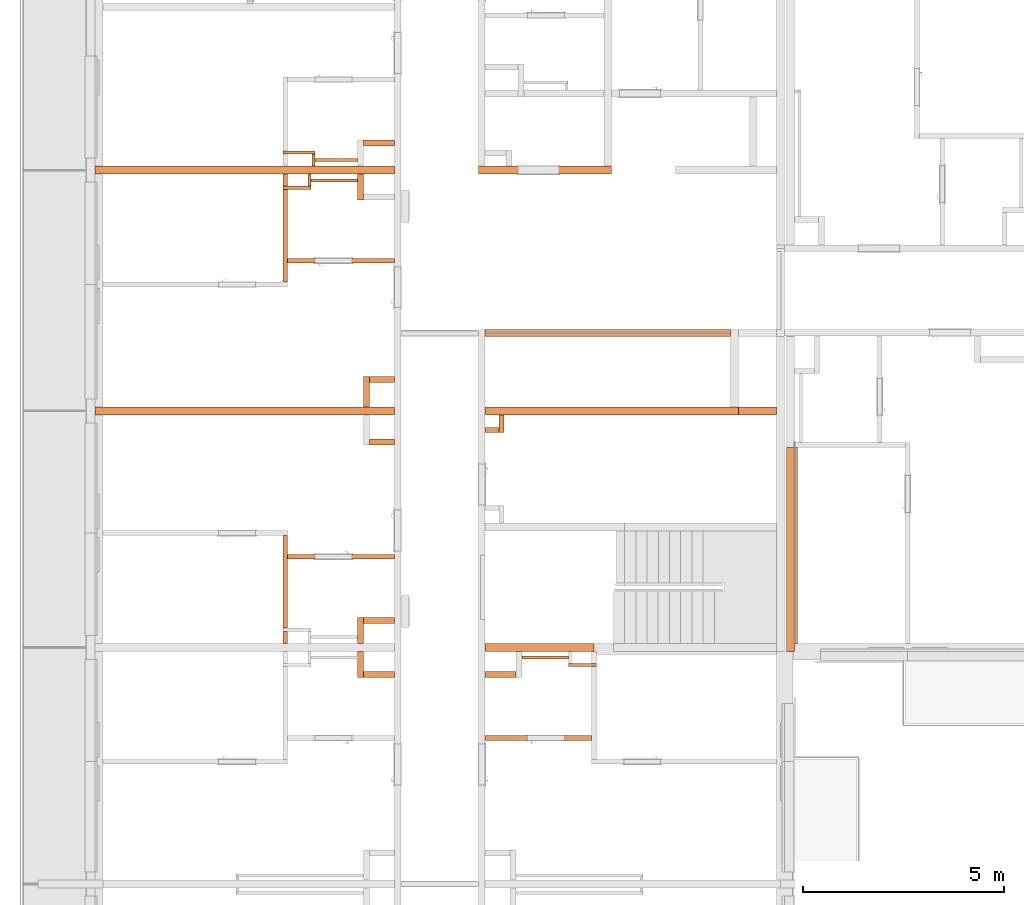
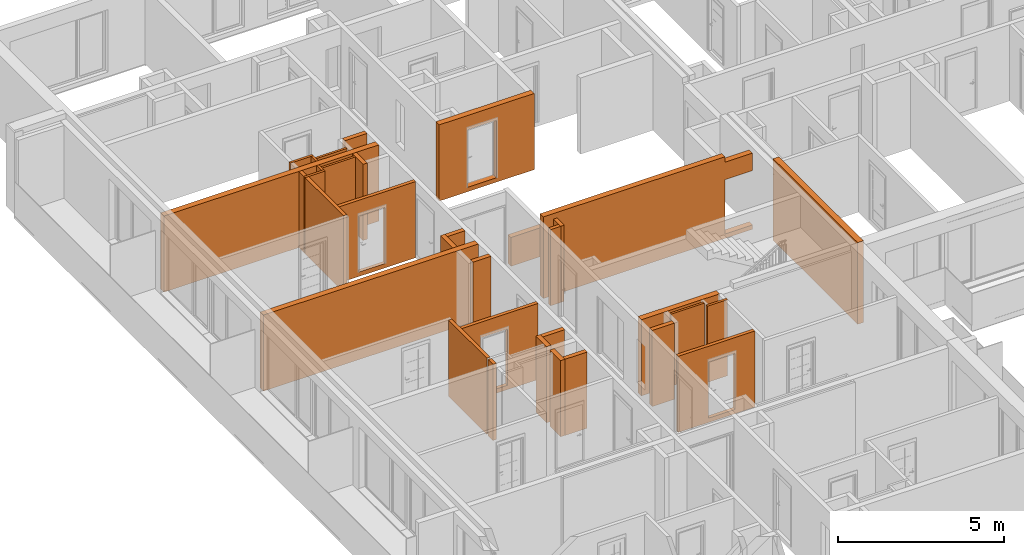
# One storey, part 53 of 64: 32 proxies, 5 openings.
"""IFC2X3 building model written with IfcOpenShell, lengths in millimetres."""

from ifc_helpers import new_model, entity, si_unit, converted_unit, derived_unit, money_unit, direction, frame, origin_with_axes, origin_2d_with_axis, place, context, subcontext, project, spatial, rectangle, extrude, faceted_brep, material, material_list, type_object, element, save


model = new_model("IFC2X3")

# Units and contexts
model_context = context("Model", 3, precision=0.01, world=origin_with_axes(), true_north=direction((0.34421633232, 0.938890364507)))
body_context = subcontext(model_context, "Body", "Model", "MODEL_VIEW")
ifc_project = project(units=[si_unit("LENGTHUNIT", "METRE", prefix="MILLI"), si_unit("AREAUNIT", "SQUARE_METRE"), si_unit("VOLUMEUNIT", "CUBIC_METRE"), converted_unit("PLANEANGLEUNIT", "DEGREE", entity("IfcPlaneAngleMeasure", 0.0174532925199), si_unit("PLANEANGLEUNIT", "RADIAN"), dimensions=[0, 0, 0, 0, 0, 0, 0]), si_unit("SOLIDANGLEUNIT", "STERADIAN"), money_unit("USD"), converted_unit("TIMEUNIT", "Year", entity("IfcTimeMeasure", 31556926.0), si_unit("TIMEUNIT", "SECOND"), dimensions=[0, 0, 1, 0, 0, 0, 0]), si_unit("MASSUNIT", "GRAM", prefix="KILO"), si_unit("THERMODYNAMICTEMPERATUREUNIT", "DEGREE_CELSIUS"), si_unit("LUMINOUSINTENSITYUNIT", "LUMEN"), si_unit("ENERGYUNIT", "JOULE", prefix="MEGA"), derived_unit("THERMALCONDUCTANCEUNIT", [(si_unit("POWERUNIT", "WATT"), 1), (si_unit("LENGTHUNIT", "METRE"), -1), (si_unit("THERMODYNAMICTEMPERATUREUNIT", "KELVIN"), -1)]), derived_unit("SPECIFICHEATCAPACITYUNIT", [(si_unit("ENERGYUNIT", "JOULE"), 1), (si_unit("MASSUNIT", "GRAM", prefix="KILO"), -1), (si_unit("THERMODYNAMICTEMPERATUREUNIT", "KELVIN"), -1)]), derived_unit("MASSDENSITYUNIT", [(si_unit("MASSUNIT", "GRAM", prefix="KILO"), 1), (si_unit("VOLUMEUNIT", "CUBIC_METRE"), -1)])], contexts=[model_context])

# Site, building, storey
site_placement = place(None, origin_with_axes())
site = spatial("IfcSite", under=ifc_project, at=site_placement, Name="USTRONIE MORSKIE", CompositionType="ELEMENT")
building_placement = place(site_placement, origin_with_axes())
building = spatial("IfcBuilding", under=site, at=building_placement, Name="Budynek", CompositionType="ELEMENT")
storey_placement = place(building_placement, frame((0.0, 0.0, 7000.0), z_axis=(0.0, 0.0, 1.0), x_axis=(1.0, 0.0, 0.0)))
storey = spatial("IfcBuildingStorey", under=building, at=storey_placement, Name="PIĘTRO 2", CompositionType="ELEMENT", Elevation=7000.0)

# Proxy, opening
ifc_material_1 = material(Name="Bloczki silikatowe")
building_element_proxy_type_1 = type_object("IfcBuildingElementProxyType", Name="Bloczki silikatowe 120", PredefinedType="NOTDEFINED")
proxy_1_placement = place(storey_placement, frame((354717.920919, 736541.179047, -160.0), z_axis=(0.0, 0.0, 1.0), x_axis=(1.0, 0.0, 0.0)))
proxy_1 = element("IfcBuildingElementProxy", 1, at=proxy_1_placement, inside=storey, type_object=building_element_proxy_type_1, material=ifc_material_1, Name="SW-04", context=body_context, shape_type="Brep", body=[
    faceted_brep([(2720.0, -59.9999999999, 2800.0), (2720.0, 59.9999999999, 2800.0), (60.0, 59.9999999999, 2800.0), (60.0, -59.9999999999, 2800.0), (2720.0, -59.9999999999, 0.0), (2720.0, 59.9999999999, 0.0), (60.0, 59.9999999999, 0.0), (60.0, -59.9999999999, 0.0)], [[[0, 1, 2, 3]], [[1, 0, 4, 5]], [[1, 5, 6, 2]], [[7, 3, 2, 6]], [[4, 0, 3, 7]], [[5, 4, 7, 6]]]),
])
opening_1_placement = place(proxy_1_placement, frame((1200.0, 0.0, 160.0), z_axis=(0.0, 0.0, 1.0), x_axis=(1.0, 0.0, 0.0)))
element("IfcOpeningElement", 2, at=opening_1_placement, cuts=proxy_1, Name="Dw.4", context=body_context, shape_type="SweptSolid", body=[
    extrude(rectangle(XDim=920.0, YDim=2070.0, at=origin_2d_with_axis()), frame((0.0, 120.0, 1035.0), z_axis=(0.0, 1.0, 0.0), x_axis=(1.0, 0.0, 0.0)), (0.0, 0.0, -1.0), 360.0),
    extrude(rectangle(XDim=994.0, YDim=2177.0, at=origin_2d_with_axis()), frame((0.0, 60.0000000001, 1088.5), z_axis=(0.0, 1.0, 0.0), x_axis=(1.0, 0.0, 0.0)), (0.0, 0.0, 1.0), 120.0),
    extrude(rectangle(XDim=994.0, YDim=2177.0, at=origin_2d_with_axis()), frame((0.0, -59.9999999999, 1088.5), z_axis=(0.0, -1.0, 0.0), x_axis=(1.0, 0.0, 0.0)), (0.0, 0.0, 1.0), 120.0),
])

proxy_2_placement = place(storey_placement, frame((362417.920919, 724641.179437, -160.0), z_axis=(0.0, 0.0, 1.0), x_axis=(-1.0, 0.0, 0.0)))
proxy_2 = element("IfcBuildingElementProxy", 3, at=proxy_2_placement, inside=storey, type_object=building_element_proxy_type_1, material=ifc_material_1, Name="SW-04", context=body_context, shape_type="Brep", body=[
    faceted_brep([(2720.0, 59.9999999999, 0.0), (2720.0, -59.9999999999, 0.0), (60.0, -59.9999999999, 0.0), (60.0, 59.9999999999, 0.0), (2720.0, 59.9999999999, 2800.0), (2720.0, -59.9999999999, 2800.0), (60.0, -59.9999999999, 2800.0), (60.0, 59.9999999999, 2800.0)], [[[0, 1, 2, 3]], [[1, 0, 4, 5]], [[1, 5, 6, 2]], [[7, 3, 2, 6]], [[4, 0, 3, 7]], [[5, 4, 7, 6]]]),
])
opening_2_placement = place(proxy_2_placement, frame((1200.0, 1.13686837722e-10, 160.0), z_axis=(0.0, 0.0, 1.0), x_axis=(1.0, 0.0, 0.0)))
element("IfcOpeningElement", 4, at=opening_2_placement, cuts=proxy_2, Name="Dw.4", context=body_context, shape_type="SweptSolid", body=[
    extrude(rectangle(XDim=920.0, YDim=2070.0, at=origin_2d_with_axis()), frame((0.0, -120.0, 1035.0), z_axis=(0.0, -1.0, 0.0), x_axis=(-1.0, 0.0, 0.0)), (0.0, 0.0, -1.0), 360.0),
    extrude(rectangle(XDim=994.0, YDim=2177.0, at=origin_2d_with_axis()), frame((0.0, -59.9999999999, 1088.5), z_axis=(0.0, -1.0, 0.0), x_axis=(-1.0, 0.0, 0.0)), (0.0, 0.0, 1.0), 120.0),
    extrude(rectangle(XDim=994.0, YDim=2177.0, at=origin_2d_with_axis()), frame((0.0, 60.0000000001, 1088.5), z_axis=(0.0, 1.0, 0.0), x_axis=(-1.0, 0.0, 0.0)), (0.0, 0.0, 1.0), 120.0),
])

# Proxies
proxy_3_placement = place(storey_placement, frame((354717.920919, 738801.199036, -160.0), z_axis=(0.0, 0.0, 1.0), x_axis=(0.0, -1.0, 0.0)))
element("IfcBuildingElementProxy", 5, at=proxy_3_placement, inside=storey, type_object=building_element_proxy_type_1, material=ifc_material_1, Name="SW-04", context=body_context, shape_type="Brep", body=[
    faceted_brep([(400.01915523, 60.0, 0.0), (100.000390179, 60.0, 0.0), (100.000390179, 60.0, 2800.0), (400.01915523, 60.0, 2800.0), (400.01915523, -60.0, 0.0), (100.000390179, -60.0, 0.0), (100.000390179, -60.0, 2800.0), (400.01915523, -60.0, 2800.0)], [[[0, 1, 2, 3]], [[4, 5, 1, 0]], [[5, 6, 2, 1]], [[3, 2, 6, 7]], [[4, 0, 3, 7]], [[7, 6, 5, 4]]]),
    faceted_brep([(480.01915523, 60.0, 2800.0), (480.01915523, -60.0, 2800.0), (2790.01935038, -60.0, 2800.0), (2790.01935038, 60.0, 2800.0), (480.01915523, 60.0, 0.0), (480.01915523, -60.0, 0.0), (2790.01935038, -60.0, 0.0), (2790.01935038, 60.0, 0.0)], [[[0, 1, 2, 3]], [[1, 0, 4, 5]], [[1, 5, 6, 2]], [[7, 3, 2, 6]], [[4, 0, 3, 7]], [[5, 4, 7, 6]]]),
])
proxy_4_placement = place(storey_placement, frame((354717.920919, 726901.199036, -160.0), z_axis=(0.0, 0.0, 1.0), x_axis=(0.0, 1.0, 0.0)))
element("IfcBuildingElementProxy", 6, at=proxy_4_placement, inside=storey, type_object=building_element_proxy_type_1, material=ifc_material_1, Name="SW-04", context=body_context, shape_type="Brep", body=[
    faceted_brep([(2790.01935038, 60.0, 0.0), (2790.01935038, -60.0, 0.0), (480.01915523, -60.0, 0.0), (480.01915523, 60.0, 0.0), (2790.01935038, 60.0, 2800.0), (2790.01935038, -60.0, 2800.0), (480.01915523, -60.0, 2800.0), (480.01915523, 60.0, 2800.0)], [[[0, 1, 2, 3]], [[1, 0, 4, 5]], [[1, 5, 6, 2]], [[7, 3, 2, 6]], [[4, 0, 3, 7]], [[5, 4, 7, 6]]]),
    faceted_brep([(400.01915523, 60.0, 0.0), (400.01915523, -60.0, 0.0), (99.9999999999, -60.0, 0.0), (99.9999999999, 60.0, 0.0), (400.01915523, 60.0, 2800.0), (400.01915523, -60.0, 2800.0), (99.9999999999, -60.0, 2800.0), (99.9999999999, 60.0, 2800.0)], [[[0, 1, 2, 3]], [[1, 0, 4, 5]], [[1, 5, 6, 2]], [[7, 3, 2, 6]], [[4, 0, 3, 7]], [[5, 4, 7, 6]]]),
])

# Proxy, opening
proxy_5_placement = place(storey_placement, frame((354717.920919, 729161.218596, -160.0), z_axis=(0.0, 0.0, 1.0), x_axis=(1.0, 0.0, 0.0)))
proxy_5 = element("IfcBuildingElementProxy", 7, at=proxy_5_placement, inside=storey, type_object=building_element_proxy_type_1, material=ifc_material_1, Name="SW-04", context=body_context, shape_type="Brep", body=[
    faceted_brep([(2720.0, 59.9999999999, 0.0), (2720.0, -59.9999999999, 0.0), (60.0, -59.9999999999, 0.0), (60.0, 59.9999999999, 0.0), (2720.0, 59.9999999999, 2800.0), (2720.0, -59.9999999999, 2800.0), (60.0, -59.9999999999, 2800.0), (60.0, 59.9999999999, 2800.0)], [[[0, 1, 2, 3]], [[1, 0, 4, 5]], [[1, 5, 6, 2]], [[7, 3, 2, 6]], [[4, 0, 3, 7]], [[5, 4, 7, 6]]]),
])
opening_3_placement = place(proxy_5_placement, frame((1200.0, 0.0, 160.0), z_axis=(0.0, 0.0, 1.0), x_axis=(1.0, 0.0, 0.0)))
element("IfcOpeningElement", 8, at=opening_3_placement, cuts=proxy_5, Name="Dw.4", context=body_context, shape_type="SweptSolid", body=[
    extrude(rectangle(XDim=920.0, YDim=2070.0, at=origin_2d_with_axis()), frame((0.0, -120.0, 1035.0), z_axis=(0.0, -1.0, 0.0), x_axis=(-1.0, 0.0, 0.0)), (0.0, 0.0, -1.0), 360.0),
    extrude(rectangle(XDim=994.0, YDim=2177.0, at=origin_2d_with_axis()), frame((0.0, -59.9999999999, 1088.5), z_axis=(0.0, -1.0, 0.0), x_axis=(-1.0, 0.0, 0.0)), (0.0, 0.0, 1.0), 120.0),
    extrude(rectangle(XDim=994.0, YDim=2177.0, at=origin_2d_with_axis()), frame((0.0, 60.0000000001, 1088.5), z_axis=(0.0, 1.0, 0.0), x_axis=(-1.0, 0.0, 0.0)), (0.0, 0.0, 1.0), 120.0),
])

# Proxies
proxy_6_placement = place(storey_placement, frame((360047.920919, 732381.198997, -160.0), z_axis=(0.0, 0.0, 1.0), x_axis=(-1.0, 0.0, 0.0)))
element("IfcBuildingElementProxy", 9, at=proxy_6_placement, inside=storey, type_object=building_element_proxy_type_1, material=ifc_material_1, Name="SW-04", context=body_context, shape_type="Brep", body=[
    faceted_brep([(350.0, 120.0, 0.0), (350.0, 0.0, 0.0), (0.0, 0.0, 0.0), (0.0, 120.0, 0.0), (350.0, 120.0, 2800.0), (350.0, 0.0, 2800.0), (0.0, 0.0, 2800.0), (0.0, 120.0, 2800.0)], [[[0, 1, 2, 3]], [[1, 0, 4, 5]], [[1, 5, 6, 2]], [[7, 3, 2, 6]], [[4, 0, 3, 7]], [[5, 4, 7, 6]]]),
])
proxy_7_placement = place(storey_placement, frame((360047.920919, 732801.199169, -160.0), z_axis=(0.0, 0.0, 1.0), x_axis=(0.0, -1.0, 0.0)))
element("IfcBuildingElementProxy", 10, at=proxy_7_placement, inside=storey, type_object=building_element_proxy_type_1, material=ifc_material_1, Name="SW-04", context=body_context, shape_type="Brep", body=[
    faceted_brep([(540.000171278, 120.0, 0.0), (540.000171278, 0.0, 0.0), (100.000132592, 0.0, 0.0), (100.000132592, 120.0, 0.0), (540.000171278, 120.0, 2800.0), (540.000171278, 0.0, 2800.0), (100.000132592, 0.0, 2800.0), (100.000132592, 120.0, 2800.0)], [[[0, 1, 2, 3]], [[1, 0, 4, 5]], [[1, 5, 6, 2]], [[7, 3, 2, 6]], [[4, 0, 3, 7]], [[5, 4, 7, 6]]]),
])
building_element_proxy_type_2 = type_object("IfcBuildingElementProxyType", Name="Bloczki silikatowe 180", PredefinedType="NOTDEFINED")
proxy_8_placement = place(storey_placement, frame((365817.926125, 734741.198985, -160.0), z_axis=(0.0, 0.0, 1.0), x_axis=(-1.0, 0.0, 0.0)))
element("IfcBuildingElementProxy", 11, at=proxy_8_placement, inside=storey, type_object=building_element_proxy_type_2, material=ifc_material_1, Name="SW-02", context=body_context, shape_type="Brep", body=[
    faceted_brep([(6120.00520575, 90.0, 0.0), (6120.00520575, -90.0, 0.0), (0.0, -90.0, 0.0), (0.0, 90.0, 0.0), (6120.00520575, 90.0, 1060.0), (6120.00520575, -90.0, 1060.0), (0.0, -90.0, 1060.0), (0.0, 90.0, 1060.0)], [[[0, 1, 2, 3]], [[1, 0, 4, 5]], [[1, 5, 6, 2]], [[7, 3, 2, 6]], [[4, 0, 3, 7]], [[5, 4, 7, 6]]]),
])
ifc_material_2 = material(Name="-Pustka powietrzna")
ifc_material_3 = material(Name="Płyta GK")
ifc_material_list_1 = material_list([ifc_material_2, ifc_material_3, ifc_material_3])
building_element_proxy_type_3 = type_object("IfcBuildingElementProxyType", Name="330-SD GK 2-warstwy 75", PredefinedType="NOTDEFINED")
proxy_9_placement = place(storey_placement, frame((360542.92182, 726631.200807, -180.0), z_axis=(0.0, 0.0, 1.0), x_axis=(1.0, 0.0, 0.0)))
element("IfcBuildingElementProxy", 12, at=proxy_9_placement, inside=storey, type_object=building_element_proxy_type_3, material=ifc_material_list_1, Name="Ściana-009", context=body_context, shape_type="Brep", body=[
    faceted_brep([(1234.99909883, 0.0, 180.0), (1234.99909883, 50.0, 180.0), (1234.99909883, 50.0, 2820.0), (1234.99909883, 0.0, 2820.0), (75.0, 50.0, 180.0), (75.0, 0.0, 180.0), (75.0, 50.0, 2820.0), (75.0, 0.0, 2820.0)], [[[0, 1, 2, 3]], [[4, 1, 0, 5]], [[1, 4, 6, 2]], [[7, 3, 2, 6]], [[5, 0, 3, 7]], [[4, 5, 7, 6]]]),
    faceted_brep([(1234.99909883, -12.5, 165.0), (1234.99909883, 0.0, 165.0), (1234.99909883, 0.0, 2820.0), (1234.99909883, -12.5, 2820.0), (75.0, 0.0, 165.0), (75.0, -12.5, 165.0), (75.0, 0.0, 2820.0), (75.0, -12.5, 2820.0)], [[[0, 1, 2, 3]], [[4, 1, 0, 5]], [[1, 4, 6, 2]], [[7, 3, 2, 6]], [[5, 0, 3, 7]], [[4, 5, 7, 6]]]),
    faceted_brep([(1234.99909883, -25.0, 165.0), (1234.99909883, -12.5, 165.0), (1234.99909883, -12.5, 2820.0), (1234.99909883, -25.0, 2820.0), (75.0, -12.5, 165.0), (75.0, -25.0, 165.0), (75.0, -12.5, 2820.0), (75.0, -25.0, 2820.0)], [[[0, 1, 2, 3]], [[4, 1, 0, 5]], [[1, 4, 6, 2]], [[7, 3, 2, 6]], [[5, 0, 3, 7]], [[4, 5, 7, 6]]]),
])
proxy_10_placement = place(storey_placement, frame((355317.920919, 738531.200389, -180.0), z_axis=(0.0, 0.0, 1.0), x_axis=(1.0, 0.0, 0.0)))
element("IfcBuildingElementProxy", 13, at=proxy_10_placement, inside=storey, type_object=building_element_proxy_type_3, material=ifc_material_list_1, Name="Ściana-009", context=body_context, shape_type="Brep", body=[
    faceted_brep([(1199.99909883, 0.0, 180.0), (1199.99909883, 50.0, 180.0), (1199.99909883, 50.0, 2820.0), (1199.99909883, 0.0, 2820.0), (40.0, 50.0, 180.0), (40.0, 0.0, 180.0), (40.0, 50.0, 2820.0), (40.0, 0.0, 2820.0)], [[[0, 1, 2, 3]], [[4, 1, 0, 5]], [[1, 4, 6, 2]], [[7, 3, 2, 6]], [[5, 0, 3, 7]], [[4, 5, 7, 6]]]),
    faceted_brep([(1199.99909883, -12.5, 165.0), (1199.99909883, 0.0, 165.0), (1199.99909883, 0.0, 2820.0), (1199.99909883, -12.5, 2820.0), (40.0, 0.0, 165.0), (40.0, -12.5, 165.0), (40.0, 0.0, 2820.0), (40.0, -12.5, 2820.0)], [[[0, 1, 2, 3]], [[4, 1, 0, 5]], [[1, 4, 6, 2]], [[7, 3, 2, 6]], [[5, 0, 3, 7]], [[4, 5, 7, 6]]]),
    faceted_brep([(1199.99909883, -25.0, 165.0), (1199.99909883, -12.5, 165.0), (1199.99909883, -12.5, 2820.0), (1199.99909883, -25.0, 2820.0), (40.0, -12.5, 165.0), (40.0, -25.0, 165.0), (40.0, -12.5, 2820.0), (40.0, -25.0, 2820.0)], [[[0, 1, 2, 3]], [[4, 1, 0, 5]], [[1, 4, 6, 2]], [[7, 3, 2, 6]], [[5, 0, 3, 7]], [[4, 5, 7, 6]]]),
])
ifc_material_list_2 = material_list([ifc_material_3, ifc_material_3, ifc_material_2])
proxy_11_placement = place(storey_placement, frame((355417.920919, 739071.20032, -180.0), z_axis=(0.0, 0.0, 1.0), x_axis=(1.0, 0.0, 0.0)))
element("IfcBuildingElementProxy", 14, at=proxy_11_placement, inside=storey, type_object=building_element_proxy_type_3, material=ifc_material_list_2, Name="Ściana-009", context=body_context, shape_type="Brep", body=[
    faceted_brep([(1099.99909883, 12.5, 165.0), (1099.99909883, 25.0, 165.0), (1099.99909883, 25.0, 2820.0), (1099.99909883, 12.5, 2820.0), (40.0, 25.0, 165.0), (40.0, 12.5, 165.0), (40.0, 25.0, 2820.0), (40.0, 12.5, 2820.0)], [[[0, 1, 2, 3]], [[4, 1, 0, 5]], [[1, 4, 6, 2]], [[7, 3, 2, 6]], [[5, 0, 3, 7]], [[4, 5, 7, 6]]]),
    faceted_brep([(1099.99909883, 0.0, 165.0), (1099.99909883, 12.5, 165.0), (1099.99909883, 12.5, 2820.0), (1099.99909883, 0.0, 2820.0), (40.0, 12.5, 165.0), (40.0, 0.0, 165.0), (40.0, 12.5, 2820.0), (40.0, 0.0, 2820.0)], [[[0, 1, 2, 3]], [[4, 1, 0, 5]], [[1, 4, 6, 2]], [[7, 3, 2, 6]], [[5, 0, 3, 7]], [[4, 5, 7, 6]]]),
    faceted_brep([(1099.99909883, -50.0, 180.0), (1099.99909883, 0.0, 180.0), (1099.99909883, 0.0, 2820.0), (1099.99909883, -50.0, 2820.0), (40.0, 0.0, 180.0), (40.0, -50.0, 180.0), (40.0, 0.0, 2820.0), (40.0, -50.0, 2820.0)], [[[0, 1, 2, 3]], [[4, 1, 0, 5]], [[1, 4, 6, 2]], [[7, 3, 2, 6]], [[5, 0, 3, 7]], [[4, 5, 7, 6]]]),
])
building_element_proxy_type_4 = type_object("IfcBuildingElementProxyType", Name="Bloczki silikatowe 80", PredefinedType="NOTDEFINED")
proxy_12_placement = place(storey_placement, frame((362417.920919, 726461.179881, -160.0), z_axis=(0.0, 0.0, 1.0), x_axis=(-1.0, 0.0, 0.0)))
element("IfcBuildingElementProxy", 15, at=proxy_12_placement, inside=storey, type_object=building_element_proxy_type_4, material=ifc_material_1, Name="Ściana-009", context=body_context, shape_type="Brep", body=[
    faceted_brep([(640.0, 40.0, 0.0), (640.0, -40.0, 0.0), (-60.0, -40.0, 0.0), (-60.0, 40.0, 0.0), (640.0, 40.0, 2800.0), (640.0, -40.0, 2800.0), (-60.0, -40.0, 2800.0), (-60.0, 40.0, 2800.0)], [[[0, 1, 2, 3]], [[1, 0, 4, 5]], [[1, 5, 6, 2]], [[7, 3, 2, 6]], [[4, 0, 3, 7]], [[5, 4, 7, 6]]]),
])
proxy_13_placement = place(storey_placement, frame((355317.920919, 738801.19863, -160.0), z_axis=(0.0, 0.0, 1.0), x_axis=(0.0, -1.0, 0.0)))
element("IfcBuildingElementProxy", 16, at=proxy_13_placement, inside=storey, type_object=building_element_proxy_type_4, material=ifc_material_1, Name="Ściana-010", context=body_context, shape_type="Brep", body=[
    faceted_brep([(400.018748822, -40.0, 2800.0), (400.018748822, 40.0, 2800.0), (99.9999997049, 40.0, 2800.0), (100.000000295, -40.0, 2800.0), (400.018748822, -40.0, 0.0), (400.018748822, 40.0, 0.0), (99.9999997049, 40.0, 0.0), (100.000000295, -40.0, 0.0)], [[[0, 1, 2, 3]], [[1, 0, 4, 5]], [[1, 5, 6, 2]], [[7, 3, 2, 6]], [[4, 0, 3, 7]], [[5, 4, 7, 6]]]),
])
proxy_14_placement = place(storey_placement, frame((354717.920919, 738361.179881, -160.0), z_axis=(0.0, 0.0, 1.0), x_axis=(1.0, 0.0, 0.0)))
element("IfcBuildingElementProxy", 17, at=proxy_14_placement, inside=storey, type_object=building_element_proxy_type_4, material=ifc_material_1, Name="Ściana-009", context=body_context, shape_type="Brep", body=[
    faceted_brep([(640.0, -40.0, 2800.0), (640.0, 40.0, 2800.0), (-60.0, 40.0, 2800.0), (-60.0, -40.0, 2800.0), (640.0, -40.0, 0.0), (640.0, 40.0, 0.0), (-60.0, 40.0, 0.0), (-60.0, -40.0, 0.0)], [[[0, 1, 2, 3]], [[1, 0, 4, 5]], [[1, 5, 6, 2]], [[7, 3, 2, 6]], [[4, 0, 3, 7]], [[5, 4, 7, 6]]]),
])
proxy_15_placement = place(storey_placement, frame((355417.920919, 738801.19863, -160.0), z_axis=(0.0, 0.0, 1.0), x_axis=(0.0, 1.0, 0.0)))
element("IfcBuildingElementProxy", 18, at=proxy_15_placement, inside=storey, type_object=building_element_proxy_type_4, material=ifc_material_1, Name="Ściana-010", context=body_context, shape_type="Brep", body=[
    faceted_brep([(400.019561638, 40.0, 0.0), (400.019561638, -40.0, 0.0), (100.000001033, -40.0, 0.0), (100.000000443, 40.0, 0.0), (400.019561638, 40.0, 2800.0), (400.019561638, -40.0, 2800.0), (100.000001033, -40.0, 2800.0), (100.000000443, 40.0, 2800.0)], [[[0, 1, 2, 3]], [[1, 0, 4, 5]], [[1, 5, 6, 2]], [[7, 3, 2, 6]], [[4, 0, 3, 7]], [[5, 4, 7, 6]]]),
])
proxy_16_placement = place(storey_placement, frame((354717.920919, 739241.218191, -160.0), z_axis=(0.0, 0.0, 1.0), x_axis=(1.0, 0.0, 0.0)))
element("IfcBuildingElementProxy", 19, at=proxy_16_placement, inside=storey, type_object=building_element_proxy_type_4, material=ifc_material_1, Name="Ściana-009", context=body_context, shape_type="Brep", body=[
    faceted_brep([(740.0, 40.0, 0.0), (740.0, -40.0, 0.0), (-60.0, -40.0, 0.0), (-60.0, 40.0, 0.0), (740.0, 40.0, 2800.0), (740.0, -40.0, 2800.0), (-60.0, -40.0, 2800.0), (-60.0, 40.0, 2800.0)], [[[0, 1, 2, 3]], [[1, 0, 4, 5]], [[1, 5, 6, 2]], [[7, 3, 2, 6]], [[4, 0, 3, 7]], [[5, 4, 7, 6]]]),
])
building_element_proxy_type_5 = type_object("IfcBuildingElementProxyType", Name="Bloczki silikatowe 150", PredefinedType="NOTDEFINED")
proxy_17_placement = place(storey_placement, frame((356592.920018, 726901.199043, -160.0), z_axis=(0.0, 0.0, 1.0), x_axis=(0.0, -1.0, 0.0)))
element("IfcBuildingElementProxy", 20, at=proxy_17_placement, inside=storey, type_object=building_element_proxy_type_5, material=ifc_material_1, Name="SW-03", context=body_context, shape_type="Brep", body=[
    faceted_brep([(750.000879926, -75.0, 2800.0), (750.000879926, 75.0, 2800.0), (100.000007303, 75.0, 2800.0), (100.000007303, -75.0, 2800.0), (750.000879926, -75.0, 0.0), (750.000879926, 75.0, 0.0), (100.000007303, 75.0, 0.0), (100.000007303, -75.0, 0.0)], [[[0, 1, 2, 3]], [[1, 0, 4, 5]], [[1, 5, 6, 2]], [[7, 3, 2, 6]], [[4, 0, 3, 7]], [[5, 4, 7, 6]]]),
])
for number, where, z_axis, x_axis, name in (
    (21, (356592.920018, 727576.199909, -160.0), (0.0, 0.0, 1.0), (1.0, 0.0, 0.0), "SW-03"),
    (22, (356592.920018, 739476.199519, -160.0), (0.0, 0.0, 1.0), (1.0, 0.0, 0.0), "SW-03"),
):
    element("IfcBuildingElementProxy", number, at=place(storey_placement, frame(where, z_axis=z_axis, x_axis=x_axis)), inside=storey, type_object=building_element_proxy_type_5, material=ifc_material_1, Name=name, context=body_context, shape_type="Brep", body=[
        faceted_brep([(845.00090117, 75.0, 0.0), (845.00090117, -75.0, 0.0), (75.0, -75.0, 0.0), (75.0, 75.0, 0.0), (845.00090117, 75.0, 2800.0), (845.00090117, -75.0, 2800.0), (75.0, -75.0, 2800.0), (75.0, 75.0, 2800.0)], [[[0, 1, 2, 3]], [[1, 0, 4, 5]], [[1, 5, 6, 2]], [[7, 3, 2, 6]], [[4, 0, 3, 7]], [[5, 4, 7, 6]]]),
    ])
proxy_18_placement = place(storey_placement, frame((356817.920919, 732801.198998, -160.0), z_axis=(0.0, 0.0, 1.0), x_axis=(0.0, 1.0, 0.0)))
element("IfcBuildingElementProxy", 23, at=proxy_18_placement, inside=storey, type_object=building_element_proxy_type_5, material=ifc_material_1, Name="SW-03", context=body_context, shape_type="Brep", body=[
    faceted_brep([(850.000037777, 150.0, 0.0), (850.000037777, 0.0, 0.0), (100.000037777, 0.0, 0.0), (100.000037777, 150.0, 0.0), (850.000037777, 150.0, 2800.0), (850.000037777, 0.0, 2800.0), (100.000037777, 0.0, 2800.0), (100.000037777, 150.0, 2800.0)], [[[0, 1, 2, 3]], [[1, 0, 4, 5]], [[1, 5, 6, 2]], [[7, 3, 2, 6]], [[4, 0, 3, 7]], [[5, 4, 7, 6]]]),
])
proxy_19_placement = place(storey_placement, frame((356817.920919, 733501.199036, -160.0), z_axis=(0.0, 0.0, 1.0), x_axis=(1.0, 0.0, 0.0)))
element("IfcBuildingElementProxy", 24, at=proxy_19_placement, inside=storey, type_object=building_element_proxy_type_5, material=ifc_material_1, Name="SW-03", context=body_context, shape_type="Brep", body=[
    faceted_brep([(620.0, 150.0, 0.0), (620.0, 0.0, 0.0), (0.0, 0.0, 0.0), (0.0, 150.0, 0.0), (620.0, 150.0, 2800.0), (620.0, 0.0, 2800.0), (0.0, 0.0, 2800.0), (0.0, 150.0, 2800.0)], [[[0, 1, 2, 3]], [[1, 0, 4, 5]], [[1, 5, 6, 2]], [[7, 3, 2, 6]], [[4, 0, 3, 7]], [[5, 4, 7, 6]]]),
])
proxy_20_placement = place(storey_placement, frame((356592.920018, 738801.198641, -160.0), z_axis=(0.0, 0.0, 1.0), x_axis=(0.0, -1.0, 0.0)))
element("IfcBuildingElementProxy", 25, at=proxy_20_placement, inside=storey, type_object=building_element_proxy_type_5, material=ifc_material_1, Name="SW-03", context=body_context, shape_type="Brep", body=[
    faceted_brep([(750.000879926, -75.0, 2800.0), (750.000879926, 75.0, 2800.0), (100.000001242, 75.0, 2800.0), (100.000002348, -75.0, 2800.0), (750.000879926, -75.0, 0.0), (750.000879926, 75.0, 0.0), (100.000001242, 75.0, 0.0), (100.000002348, -75.0, 0.0)], [[[0, 1, 2, 3]], [[1, 0, 4, 5]], [[1, 5, 6, 2]], [[7, 3, 2, 6]], [[4, 0, 3, 7]], [[5, 4, 7, 6]]]),
])
proxy_21_placement = place(storey_placement, frame((360542.92182, 726226.197058, -160.0), z_axis=(0.0, 0.0, 1.0), x_axis=(-1.0, 0.0, 0.0)))
element("IfcBuildingElementProxy", 26, at=proxy_21_placement, inside=storey, type_object=building_element_proxy_type_5, material=ifc_material_1, Name="Ściana-009", context=body_context, shape_type="Brep", body=[
    faceted_brep([(845.00090117, 75.0, 0.0), (845.00090117, -75.0, 0.0), (75.0, -75.0, 0.0), (75.0, 75.0, 0.0), (845.00090117, 75.0, 2800.0), (845.00090117, -75.0, 2800.0), (75.0, -75.0, 2800.0), (75.0, 75.0, 2800.0)], [[[0, 1, 2, 3]], [[1, 0, 4, 5]], [[1, 5, 6, 2]], [[7, 3, 2, 6]], [[4, 0, 3, 7]], [[5, 4, 7, 6]]]),
])
proxy_22_placement = place(storey_placement, frame((356592.920018, 726901.199029, -160.0), z_axis=(0.0, 0.0, 1.0), x_axis=(0.0, 1.0, 0.0)))
element("IfcBuildingElementProxy", 27, at=proxy_22_placement, inside=storey, type_object=building_element_proxy_type_5, material=ifc_material_1, Name="SW-03", context=body_context, shape_type="Brep", body=[
    faceted_brep([(750.000879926, 75.0, 2800.0), (100.000007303, 75.0, 2800.0), (100.000007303, -75.0, 2800.0), (750.000879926, -75.0, 2800.0), (750.000879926, 75.0, 0.0), (100.000007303, 75.0, 0.0), (100.000007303, -75.0, 0.0), (750.000879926, -75.0, 0.0)], [[[0, 1, 2, 3]], [[4, 5, 1, 0]], [[5, 6, 2, 1]], [[3, 2, 6, 7]], [[0, 3, 7, 4]], [[7, 6, 5, 4]]]),
])
proxy_23_placement = place(storey_placement, frame((356817.920919, 732101.199036, -160.0), z_axis=(0.0, 0.0, 1.0), x_axis=(1.0, 0.0, 0.0)))
element("IfcBuildingElementProxy", 28, at=proxy_23_placement, inside=storey, type_object=building_element_proxy_type_5, material=ifc_material_1, Name="SW-03", context=body_context, shape_type="Brep", body=[
    faceted_brep([(620.0, -150.0, 2800.0), (620.0, 0.0, 2800.0), (0.0, 0.0, 2800.0), (0.0, -150.0, 2800.0), (620.0, -150.0, 0.0), (620.0, 0.0, 0.0), (0.0, 0.0, 0.0), (0.0, -150.0, 0.0)], [[[0, 1, 2, 3]], [[1, 0, 4, 5]], [[1, 5, 6, 2]], [[7, 3, 2, 6]], [[4, 0, 3, 7]], [[5, 4, 7, 6]]]),
])
proxy_24_placement = place(storey_placement, frame((356592.920018, 726226.198164, -160.0), z_axis=(0.0, 0.0, 1.0), x_axis=(1.0, 0.0, 0.0)))
element("IfcBuildingElementProxy", 29, at=proxy_24_placement, inside=storey, type_object=building_element_proxy_type_5, material=ifc_material_1, Name="SW-03", context=body_context, shape_type="Brep", body=[
    faceted_brep([(845.00090117, -75.0, 2800.0), (845.00090117, 75.0, 2800.0), (75.0, 75.0, 2800.0), (75.0, -75.0, 2800.0), (845.00090117, -75.0, 0.0), (845.00090117, 75.0, 0.0), (75.0, 75.0, 0.0), (75.0, -75.0, 0.0)], [[[0, 1, 2, 3]], [[1, 0, 4, 5]], [[1, 5, 6, 2]], [[7, 3, 2, 6]], [[4, 0, 3, 7]], [[5, 4, 7, 6]]]),
])

# Proxy, opening
ifc_material_4 = material(Name="Beton konstrukcyjny B25")
building_element_proxy_type_6 = type_object("IfcBuildingElementProxyType", Name="Beton konstrukcyjny B25 200", PredefinedType="NOTDEFINED")
proxy_25_placement = place(storey_placement, frame((367067.920684, 732801.199036, -160.0), z_axis=(0.0, 0.0, 1.0), x_axis=(-1.0, 0.0, 0.0)))
proxy_25 = element("IfcBuildingElementProxy", 30, at=proxy_25_placement, inside=storey, type_object=building_element_proxy_type_6, material=ifc_material_4, Name="SW-01", context=body_context, shape_type="Brep", body=[
    faceted_brep([(7369.99976534, -100.0, 3000.0), (1049.93160394, -100.004790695, 3000.0), (1049.93160394, -100.004790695, 2800.0), (99.999994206, -100.000000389, 2800.0), (99.999994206, -100.0, 0.0), (7369.99976534, -100.0, 0.0), (7369.99976534, 100.005310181, 3000.0), (1049.93145185, 100.000504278, 3000.0), (1049.93145185, 100.000504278, 2800.0), (100.000005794, 100.0, 2800.0), (100.000005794, 100.0, 0.0), (7369.99976534, 100.0, 0.0), (7369.99976534, 100.005310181, 2800.0)], [[[0, 1, 2, 3, 4, 5]], [[6, 7, 1, 0]], [[8, 2, 1, 7]], [[8, 9, 3, 2]], [[4, 3, 9, 10]], [[4, 10, 11, 5]], [[11, 12, 6, 0, 5]], [[9, 8, 7, 6, 12, 11, 10]]]),
])
opening_4_placement = place(proxy_25_placement, frame((575.001569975, 1.13686837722e-10, 160.0), z_axis=(0.0, 0.0, 1.0), x_axis=(1.0, 0.0, 0.0)))
element("IfcOpeningElement", 31, at=opening_4_placement, cuts=proxy_25, context=body_context, shape_type="SweptSolid", body=[
    extrude(rectangle(XDim=950.005444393, YDim=2000.0, at=origin_2d_with_axis()), frame((0.0, -100.0, 1000.0), z_axis=(0.0, 1.0, 0.0), x_axis=(1.0, 0.0, 0.0)), (0.0, 0.0, -1.0), 200.0),
    extrude(rectangle(XDim=950.005444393, YDim=2000.0, at=origin_2d_with_axis()), frame((0.0, -100.0, 1000.0), z_axis=(0.0, -1.0, 0.0), x_axis=(1.0, 0.0, 0.0)), (0.0, 0.0, -1.0), 200.0),
])

proxy_26_placement = place(storey_placement, frame((359617.920919, 738801.199036, -160.0), z_axis=(0.0, 0.0, 1.0), x_axis=(1.0, 0.0, 0.0)))
proxy_26 = element("IfcBuildingElementProxy", 32, at=proxy_26_placement, inside=storey, type_object=building_element_proxy_type_6, material=ifc_material_4, Name="SW-01", context=body_context, shape_type="Brep", body=[
    faceted_brep([(3229.99995481, 100.0, 0.0), (3229.99995481, -100.0, 0.0), (-80.0, -100.0, 0.0), (-80.0, 100.0, 0.0), (3229.99995481, 100.0, 2800.0), (3229.99995481, -100.0, 2800.0), (-80.0, -100.0, 2800.0), (-80.0, 100.0, 2800.0)], [[[0, 1, 2, 3]], [[1, 0, 4, 5]], [[1, 5, 6, 2]], [[7, 3, 2, 6]], [[4, 0, 3, 7]], [[5, 4, 7, 6]]]),
])
opening_5_placement = place(proxy_26_placement, frame((1410.0, 0.0, 160.0), z_axis=(0.0, 0.0, 1.0), x_axis=(1.0, 0.0, 0.0)))
element("IfcOpeningElement", 33, at=opening_5_placement, cuts=proxy_26, Name="Dw.2", context=body_context, shape_type="SweptSolid", body=[
    extrude(rectangle(XDim=1020.0, YDim=2120.0, at=origin_2d_with_axis()), frame((0.0, -200.0, 1060.0), z_axis=(0.0, 1.0, 0.0), x_axis=(1.0, 0.0, 0.0)), (0.0, 0.0, 1.0), 600.0),
    extrude(rectangle(XDim=1094.0, YDim=2227.0, at=origin_2d_with_axis()), frame((0.0, -100.0, 1113.5), z_axis=(0.0, 1.0, 0.0), x_axis=(1.0, 0.0, 0.0)), (0.0, 0.0, -1.0), 200.0),
    extrude(rectangle(XDim=1094.0, YDim=2227.0, at=origin_2d_with_axis()), frame((0.0, 100.0, 1113.5), z_axis=(0.0, -1.0, 0.0), x_axis=(1.0, 0.0, 0.0)), (0.0, 0.0, -1.0), 200.0),
])

# Proxies
proxy_27_placement = place(storey_placement, frame((350067.920919, 732801.199036, -160.0), z_axis=(0.0, 0.0, 1.0), x_axis=(1.0, 0.0, 0.0)))
element("IfcBuildingElementProxy", 34, at=proxy_27_placement, inside=storey, type_object=building_element_proxy_type_6, material=ifc_material_4, Name="SW-01", context=body_context, shape_type="Brep", body=[
    faceted_brep([(-100.0, -100.0, 2800.0), (7370.0, -100.0, 2800.0), (7370.0, 100.0, 2800.0), (-100.0, 100.0, 2800.0), (-100.0, -100.0, 0.0), (7370.0, -100.0, 0.0), (7370.0, 100.0, 0.0), (-100.0, 100.0, 0.0)], [[[0, 1, 2, 3]], [[4, 5, 1, 0]], [[6, 2, 1, 5]], [[3, 2, 6, 7]], [[7, 4, 0, 3]], [[7, 6, 5, 4]]]),
])
proxy_28_placement = place(storey_placement, frame((362417.920919, 726901.199036, -160.0), z_axis=(0.0, 0.0, 1.0), x_axis=(-1.0, 0.0, 0.0)))
element("IfcBuildingElementProxy", 35, at=proxy_28_placement, inside=storey, type_object=building_element_proxy_type_6, material=ifc_material_4, Name="SW-01", context=body_context, shape_type="Brep", body=[
    faceted_brep([(0.0, -100.0, 2800.0), (0.0, -100.0, 0.0), (2720.0, -100.0, 0.0), (2720.0, -100.0, 2800.0), (0.0, 100.0, 2800.0), (0.0, 100.0, 0.0), (2720.0, 100.0, 0.0), (2720.0, 100.0, 2800.0)], [[[0, 1, 2, 3]], [[1, 0, 4, 5]], [[1, 5, 6, 2]], [[6, 7, 3, 2]], [[4, 0, 3, 7]], [[5, 4, 7, 6]]]),
])
proxy_29_placement = place(storey_placement, frame((357517.920919, 738801.198646, -160.0), z_axis=(0.0, 0.0, 1.0), x_axis=(-1.0, -7.37678029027e-09, 0.0)))
element("IfcBuildingElementProxy", 36, at=proxy_29_placement, inside=storey, type_object=building_element_proxy_type_6, material=ifc_material_4, Name="SW-01", context=body_context, shape_type="Brep", body=[
    faceted_brep([(80.0000007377, 99.9999994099, 0.0), (7550.00000074, 99.9999443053, 0.0), (7549.99999926, -100.000055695, 0.0), (79.9999992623, -100.00000059, 0.0), (80.0000007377, 99.9999994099, 2800.0), (7550.00000074, 99.9999443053, 2800.0), (7549.99999926, -100.000055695, 2800.0), (79.9999992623, -100.00000059, 2800.0)], [[[0, 1, 2, 3]], [[4, 5, 1, 0]], [[6, 2, 1, 5]], [[3, 2, 6, 7]], [[7, 4, 0, 3]], [[7, 6, 5, 4]]]),
])
ifc_material_5 = material(Name="Izolacja akustyczna")
ifc_material_list_3 = material_list([ifc_material_4, ifc_material_5, ifc_material_3])
building_element_proxy_type_7 = type_object("IfcBuildingElementProxyType", Name="20+5 AKU 275", PredefinedType="NOTDEFINED")
proxy_30_placement = place(storey_placement, frame((367317.921061, 726901.199036, -160.0), z_axis=(0.0, 0.0, 1.0), x_axis=(0.0, 1.0, 0.0)))
element("IfcBuildingElementProxy", 37, at=proxy_30_placement, inside=storey, type_object=building_element_proxy_type_7, material=ifc_material_list_3, Name="Œciana-007", context=body_context, shape_type="Brep", body=[
    faceted_brep([(4990.00009633, -99.8938488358, 3000.0), (4990.00009633, -99.8938488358, 2800.0), (4990.00009633, -99.999855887, 2800.0), (4990.00009633, -100.0, 0.0), (4990.00009633, 100.0, 0.0), (4990.00009633, 100.0, 3000.0), (3099.99995699, -99.8217801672, 3000.0), (3099.99995699, -99.8217801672, 2800.0), (100.0, -99.9998581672, 2800.0), (100.0, -99.9998581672, 3000.0), (-100.0, -100.0, 3000.0), (-100.0, -100.0, 0.0), (-100.0, 100.0, 0.0), (-100.0, 100.0, 3000.0)], [[[0, 1, 2, 3, 4, 5]], [[1, 0, 6, 7]], [[8, 2, 1, 7]], [[8, 9, 10, 11, 3, 2]], [[12, 4, 3, 11]], [[13, 5, 4, 12]], [[6, 0, 5, 13, 10, 9]], [[6, 9, 8, 7]], [[13, 12, 11, 10]]]),
    faceted_brep([(100.0, -150.0, 145.0), (100.0, -99.9998581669, 145.0), (4990.00009633, -99.9998581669, 145.0), (4990.00009633, -150.0, 145.0), (100.0, -150.0, 2800.0), (100.0, -99.9998581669, 2800.0), (4990.00009633, -99.999858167, 2800.0), (4990.00009633, -150.0, 2800.0)], [[[0, 1, 2, 3]], [[1, 0, 4, 5]], [[2, 1, 5, 6]], [[2, 6, 7, 3]], [[0, 3, 7, 4]], [[4, 7, 6, 5]]]),
    faceted_brep([(100.0, -175.0, 145.0), (4990.00009633, -175.0, 145.0), (4990.00009633, -175.0, 2800.0), (100.0, -175.0, 2800.0), (4990.00009633, -150.0, 145.0), (100.0, -150.0, 145.0), (4990.00009633, -150.0, 2800.0), (100.0, -150.0, 2800.0)], [[[0, 1, 2, 3]], [[4, 1, 0, 5]], [[1, 4, 6, 2]], [[3, 2, 6, 7]], [[5, 0, 3, 7]], [[4, 5, 7, 6]]]),
])

save(model, "model.ifc")
